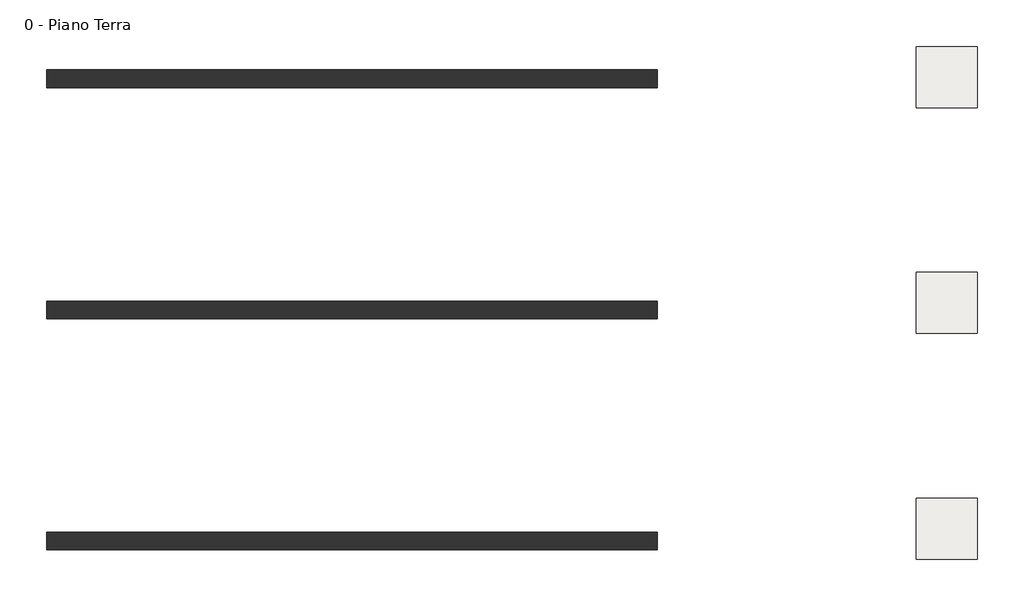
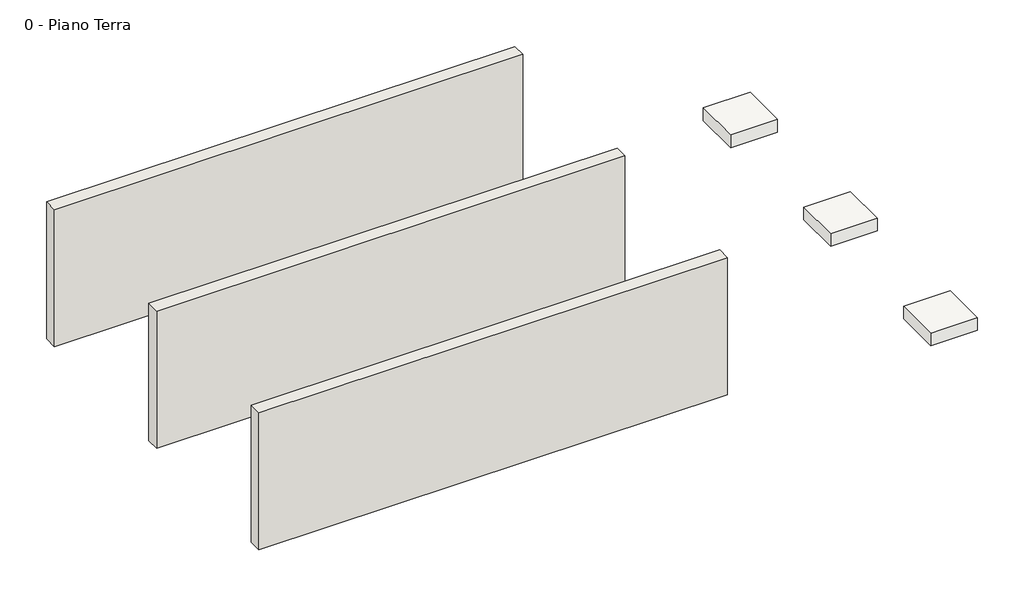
# One storey: 3 slabs, 3 walls.
"""IFC4 building model written with IfcOpenShell, lengths in millimetres."""

from ifc_helpers import new_model, si_unit, frame, origin, origin_with_axes, place, context, project, spatial, polyline, outline, extrude, element, save

model = new_model("IFC4")

# Units and contexts
model_context = context("Model", 3, world=origin())
ifc_project = project(units=[si_unit("LENGTHUNIT", "METRE", prefix="MILLI")], contexts=[model_context])

# Site, building, storey
site = spatial("IfcSite", under=ifc_project)
building = spatial("IfcBuilding", under=site)
storey = spatial("IfcBuildingStorey", under=building, Name="0 - Piano Terra", Elevation=0.0)

# Slabs
placement = place(None, origin())
element("IfcSlab", 1, ObjectType="Cappotto interno su controsoffitto con isolante GTE STIFERITE RP ʎd 0,022 W/mK", at=placement, inside=storey, context=model_context, shape_type="SweptSolid", body=[
    extrude(outline(polyline([(17023.7364619, 15240.6144564), (17023.7364619, 14240.6144564), (16023.7364619, 14240.6144564), (16023.7364619, 15240.6144564), (17023.7364619, 15240.6144564)])), frame((0.0, 0.0, -293.5), z_axis=(0.0, 0.0, 1.0), x_axis=(1.0, 0.0, 0.0)), (0.0, 0.0, 1.0), 293.5),
])
element("IfcSlab", 2, ObjectType="Cappotto interno su controsoffitto con isolante GTE STIFERITE RP WP ʎd 0,022 W/mK 2", at=placement, inside=storey, context=model_context, shape_type="SweptSolid", body=[
    extrude(outline(polyline([(17023.7364619, 11540.6144564), (17023.7364619, 10540.6144564), (16023.7364619, 10540.6144564), (16023.7364619, 11540.6144564), (17023.7364619, 11540.6144564)])), frame((0.0, 0.0, -283.5), z_axis=(0.0, 0.0, 1.0), x_axis=(1.0, 0.0, 0.0)), (0.0, 0.0, 1.0), 283.5),
])
element("IfcSlab", 3, ObjectType="Cappotto interno su controsoffitto con isolante GTE STIFERITE RP A1 ʎd 0,022 W/mK 2", at=placement, inside=storey, context=model_context, shape_type="SweptSolid", body=[
    extrude(outline(polyline([(17023.7364619, 7840.6144564), (17023.7364619, 6840.6144564), (16023.7364619, 6840.6144564), (16023.7364619, 7840.6144564), (17023.7364619, 7840.6144564)])), frame((0.0, 0.0, -283.5), z_axis=(0.0, 0.0, 1.0), x_axis=(1.0, 0.0, 0.0)), (0.0, 0.0, 1.0), 283.5),
])

# Walls
element("IfcWall", 4, ObjectType="Cappotto interno su controparete con isolante GTE STIFERITE RP ʎd 0,022 W/mK", at=placement, inside=storey, context=model_context, shape_type="SweptSolid", body=[
    extrude(outline(polyline([(11774.500829, 14562.9843659), (1774.500829, 14562.9843659), (1774.500829, 14856.4843659), (11774.500829, 14856.4843659), (11774.500829, 14562.9843659)])), origin_with_axes(), (0.0, 0.0, 1.0), 3100.0),
])
element("IfcWall", 5, ObjectType="Cappotto interno su controparete con isolante GTE STIFERITE RP WP ʎd 0,022 W/mK", at=placement, inside=storey, context=model_context, shape_type="SweptSolid", body=[
    extrude(outline(polyline([(11774.500829, 10784.4843659), (1774.500829, 10784.4843659), (1774.500829, 11067.9843659), (11774.500829, 11067.9843659), (11774.500829, 10784.4843659)])), origin_with_axes(), (0.0, 0.0, 1.0), 3100.0),
])
element("IfcWall", 6, ObjectType="Cappotto interno su controparete con isolante GTE STIFERITE RP A1 ʎd 0,022 W/mK", at=placement, inside=storey, context=model_context, shape_type="SweptSolid", body=[
    extrude(outline(polyline([(11774.500829, 7000.9843659), (1774.500829, 7000.9843659), (1774.500829, 7284.4843659), (11774.500829, 7284.4843659), (11774.500829, 7000.9843659)])), origin_with_axes(), (0.0, 0.0, 1.0), 3100.0),
])

save(model, "model.ifc")
